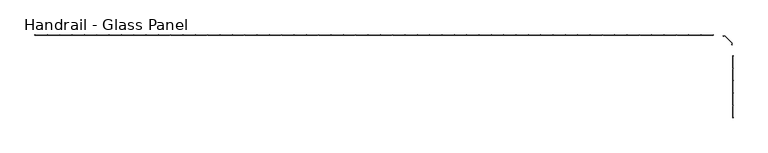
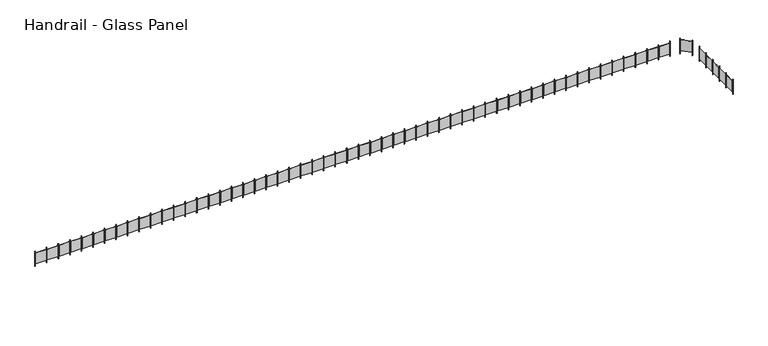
"""IFC4 building model written with IfcOpenShell, lengths in millimetres: railing geometry, Handrail - Glass Panel."""

from ifc_helpers import new_model, si_unit, frame, origin, place, context, project, spatial, polyline, outline, extrude, source, transform, mapped, element, save


def handrail_glass_panel_252f81a2(model_context):
    return source(origin(), model_context, "Body", "SweptSolid", [
        extrude(outline(polyline([(-4938.0615899, 11432.3101347), (-4938.0615899, 11413.2601347), (-4957.1115899, 11413.2601347), (-4957.1115899, 11432.3101347), (-4938.0615899, 11432.3101347)])), frame((0.0, 0.0, 11850.0), z_axis=(0.0, 0.0, 1.0), x_axis=(1.0, 0.0, 0.0)), (0.0, 0.0, 1.0), 863.6),
        extrude(outline(polyline([(-4350.6865899, 11416.4351347), (-4909.4865899, 11416.4351347), (-4909.4865899, 11422.7851347), (-4350.6865899, 11422.7851347), (-4350.6865899, 11416.4351347)])), frame((0.0, 0.0, 11977.0), z_axis=(0.0, 0.0, 1.0), x_axis=(1.0, 0.0, 0.0)), (0.0, 0.0, 1.0), 635.0),
        extrude(outline(polyline([(-4303.0615899, 11432.3101347), (-4303.0615899, 11413.2601347), (-4322.1115899, 11413.2601347), (-4322.1115899, 11432.3101347), (-4303.0615899, 11432.3101347)])), frame((0.0, 0.0, 11850.0), z_axis=(0.0, 0.0, 1.0), x_axis=(1.0, 0.0, 0.0)), (0.0, 0.0, 1.0), 863.6),
        extrude(outline(polyline([(-3715.6865899, 11416.4351347), (-4274.4865899, 11416.4351347), (-4274.4865899, 11422.7851347), (-3715.6865899, 11422.7851347), (-3715.6865899, 11416.4351347)])), frame((0.0, 0.0, 11977.0), z_axis=(0.0, 0.0, 1.0), x_axis=(1.0, 0.0, 0.0)), (0.0, 0.0, 1.0), 635.0),
        extrude(outline(polyline([(-3668.0615899, 11432.3101347), (-3668.0615899, 11413.2601347), (-3687.1115899, 11413.2601347), (-3687.1115899, 11432.3101347), (-3668.0615899, 11432.3101347)])), frame((0.0, 0.0, 11850.0), z_axis=(0.0, 0.0, 1.0), x_axis=(1.0, 0.0, 0.0)), (0.0, 0.0, 1.0), 863.6),
        extrude(outline(polyline([(-3080.6865899, 11416.4351347), (-3639.4865899, 11416.4351347), (-3639.4865899, 11422.7851347), (-3080.6865899, 11422.7851347), (-3080.6865899, 11416.4351347)])), frame((0.0, 0.0, 11977.0), z_axis=(0.0, 0.0, 1.0), x_axis=(1.0, 0.0, 0.0)), (0.0, 0.0, 1.0), 635.0),
        extrude(outline(polyline([(-3033.0615899, 11432.3101347), (-3033.0615899, 11413.2601347), (-3052.1115899, 11413.2601347), (-3052.1115899, 11432.3101347), (-3033.0615899, 11432.3101347)])), frame((0.0, 0.0, 11850.0), z_axis=(0.0, 0.0, 1.0), x_axis=(1.0, 0.0, 0.0)), (0.0, 0.0, 1.0), 863.6),
        extrude(outline(polyline([(-2445.6865899, 11416.4351347), (-3004.4865899, 11416.4351347), (-3004.4865899, 11422.7851347), (-2445.6865899, 11422.7851347), (-2445.6865899, 11416.4351347)])), frame((0.0, 0.0, 11977.0), z_axis=(0.0, 0.0, 1.0), x_axis=(1.0, 0.0, 0.0)), (0.0, 0.0, 1.0), 635.0),
        extrude(outline(polyline([(-2398.0615899, 11432.3101347), (-2398.0615899, 11413.2601347), (-2417.1115899, 11413.2601347), (-2417.1115899, 11432.3101347), (-2398.0615899, 11432.3101347)])), frame((0.0, 0.0, 11850.0), z_axis=(0.0, 0.0, 1.0), x_axis=(1.0, 0.0, 0.0)), (0.0, 0.0, 1.0), 863.6),
        extrude(outline(polyline([(-1810.6865899, 11416.4351347), (-2369.4865899, 11416.4351347), (-2369.4865899, 11422.7851347), (-1810.6865899, 11422.7851347), (-1810.6865899, 11416.4351347)])), frame((0.0, 0.0, 11977.0), z_axis=(0.0, 0.0, 1.0), x_axis=(1.0, 0.0, 0.0)), (0.0, 0.0, 1.0), 635.0),
        extrude(outline(polyline([(-1763.0615899, 11432.3101347), (-1763.0615899, 11413.2601347), (-1782.1115899, 11413.2601347), (-1782.1115899, 11432.3101347), (-1763.0615899, 11432.3101347)])), frame((0.0, 0.0, 11850.0), z_axis=(0.0, 0.0, 1.0), x_axis=(1.0, 0.0, 0.0)), (0.0, 0.0, 1.0), 863.6),
        extrude(outline(polyline([(-1175.6865899, 11416.4351347), (-1734.4865899, 11416.4351347), (-1734.4865899, 11422.7851347), (-1175.6865899, 11422.7851347), (-1175.6865899, 11416.4351347)])), frame((0.0, 0.0, 11977.0), z_axis=(0.0, 0.0, 1.0), x_axis=(1.0, 0.0, 0.0)), (0.0, 0.0, 1.0), 635.0),
        extrude(outline(polyline([(-1128.0615899, 11432.3101347), (-1128.0615899, 11413.2601347), (-1147.1115899, 11413.2601347), (-1147.1115899, 11432.3101347), (-1128.0615899, 11432.3101347)])), frame((0.0, 0.0, 11850.0), z_axis=(0.0, 0.0, 1.0), x_axis=(1.0, 0.0, 0.0)), (0.0, 0.0, 1.0), 863.6),
        extrude(outline(polyline([(-540.6865899, 11416.4351347), (-1099.4865899, 11416.4351347), (-1099.4865899, 11422.7851347), (-540.6865899, 11422.7851347), (-540.6865899, 11416.4351347)])), frame((0.0, 0.0, 11977.0), z_axis=(0.0, 0.0, 1.0), x_axis=(1.0, 0.0, 0.0)), (0.0, 0.0, 1.0), 635.0),
        extrude(outline(polyline([(-493.0615899, 11432.3101347), (-493.0615899, 11413.2601347), (-512.1115899, 11413.2601347), (-512.1115899, 11432.3101347), (-493.0615899, 11432.3101347)])), frame((0.0, 0.0, 11850.0), z_axis=(0.0, 0.0, 1.0), x_axis=(1.0, 0.0, 0.0)), (0.0, 0.0, 1.0), 863.6),
        extrude(outline(polyline([(94.3134101, 11416.4351347), (-464.4865899, 11416.4351347), (-464.4865899, 11422.7851347), (94.3134101, 11422.7851347), (94.3134101, 11416.4351347)])), frame((0.0, 0.0, 11977.0), z_axis=(0.0, 0.0, 1.0), x_axis=(1.0, 0.0, 0.0)), (0.0, 0.0, 1.0), 635.0),
        extrude(outline(polyline([(141.9384101, 11432.3101347), (141.9384101, 11413.2601347), (122.8884101, 11413.2601347), (122.8884101, 11432.3101347), (141.9384101, 11432.3101347)])), frame((0.0, 0.0, 11850.0), z_axis=(0.0, 0.0, 1.0), x_axis=(1.0, 0.0, 0.0)), (0.0, 0.0, 1.0), 863.6),
        extrude(outline(polyline([(729.3134101, 11416.4351347), (170.5134101, 11416.4351347), (170.5134101, 11422.7851347), (729.3134101, 11422.7851347), (729.3134101, 11416.4351347)])), frame((0.0, 0.0, 11977.0), z_axis=(0.0, 0.0, 1.0), x_axis=(1.0, 0.0, 0.0)), (0.0, 0.0, 1.0), 635.0),
        extrude(outline(polyline([(776.9384101, 11432.3101347), (776.9384101, 11413.2601347), (757.8884101, 11413.2601347), (757.8884101, 11432.3101347), (776.9384101, 11432.3101347)])), frame((0.0, 0.0, 11850.0), z_axis=(0.0, 0.0, 1.0), x_axis=(1.0, 0.0, 0.0)), (0.0, 0.0, 1.0), 863.6),
        extrude(outline(polyline([(1364.3134101, 11416.4351347), (805.5134101, 11416.4351347), (805.5134101, 11422.7851347), (1364.3134101, 11422.7851347), (1364.3134101, 11416.4351347)])), frame((0.0, 0.0, 11977.0), z_axis=(0.0, 0.0, 1.0), x_axis=(1.0, 0.0, 0.0)), (0.0, 0.0, 1.0), 635.0),
        extrude(outline(polyline([(1411.9384101, 11432.3101347), (1411.9384101, 11413.2601347), (1392.8884101, 11413.2601347), (1392.8884101, 11432.3101347), (1411.9384101, 11432.3101347)])), frame((0.0, 0.0, 11850.0), z_axis=(0.0, 0.0, 1.0), x_axis=(1.0, 0.0, 0.0)), (0.0, 0.0, 1.0), 863.6),
        extrude(outline(polyline([(1999.3134101, 11416.4351347), (1440.5134101, 11416.4351347), (1440.5134101, 11422.7851347), (1999.3134101, 11422.7851347), (1999.3134101, 11416.4351347)])), frame((0.0, 0.0, 11977.0), z_axis=(0.0, 0.0, 1.0), x_axis=(1.0, 0.0, 0.0)), (0.0, 0.0, 1.0), 635.0),
        extrude(outline(polyline([(2046.9384101, 11432.3101347), (2046.9384101, 11413.2601347), (2027.8884101, 11413.2601347), (2027.8884101, 11432.3101347), (2046.9384101, 11432.3101347)])), frame((0.0, 0.0, 11850.0), z_axis=(0.0, 0.0, 1.0), x_axis=(1.0, 0.0, 0.0)), (0.0, 0.0, 1.0), 863.6),
        extrude(outline(polyline([(2634.3134101, 11416.4351347), (2075.5134101, 11416.4351347), (2075.5134101, 11422.7851347), (2634.3134101, 11422.7851347), (2634.3134101, 11416.4351347)])), frame((0.0, 0.0, 11977.0), z_axis=(0.0, 0.0, 1.0), x_axis=(1.0, 0.0, 0.0)), (0.0, 0.0, 1.0), 635.0),
        extrude(outline(polyline([(2681.9384101, 11432.3101347), (2681.9384101, 11413.2601347), (2662.8884101, 11413.2601347), (2662.8884101, 11432.3101347), (2681.9384101, 11432.3101347)])), frame((0.0, 0.0, 11850.0), z_axis=(0.0, 0.0, 1.0), x_axis=(1.0, 0.0, 0.0)), (0.0, 0.0, 1.0), 863.6),
        extrude(outline(polyline([(3269.3134101, 11416.4351347), (2710.5134101, 11416.4351347), (2710.5134101, 11422.7851347), (3269.3134101, 11422.7851347), (3269.3134101, 11416.4351347)])), frame((0.0, 0.0, 11977.0), z_axis=(0.0, 0.0, 1.0), x_axis=(1.0, 0.0, 0.0)), (0.0, 0.0, 1.0), 635.0),
        extrude(outline(polyline([(3316.9384101, 11432.3101347), (3316.9384101, 11413.2601347), (3297.8884101, 11413.2601347), (3297.8884101, 11432.3101347), (3316.9384101, 11432.3101347)])), frame((0.0, 0.0, 11850.0), z_axis=(0.0, 0.0, 1.0), x_axis=(1.0, 0.0, 0.0)), (0.0, 0.0, 1.0), 863.6),
        extrude(outline(polyline([(3904.3134101, 11416.4351347), (3345.5134101, 11416.4351347), (3345.5134101, 11422.7851347), (3904.3134101, 11422.7851347), (3904.3134101, 11416.4351347)])), frame((0.0, 0.0, 11977.0), z_axis=(0.0, 0.0, 1.0), x_axis=(1.0, 0.0, 0.0)), (0.0, 0.0, 1.0), 635.0),
        extrude(outline(polyline([(3951.9384101, 11432.3101347), (3951.9384101, 11413.2601347), (3932.8884101, 11413.2601347), (3932.8884101, 11432.3101347), (3951.9384101, 11432.3101347)])), frame((0.0, 0.0, 11850.0), z_axis=(0.0, 0.0, 1.0), x_axis=(1.0, 0.0, 0.0)), (0.0, 0.0, 1.0), 863.6),
        extrude(outline(polyline([(4539.3134101, 11416.4351347), (3980.5134101, 11416.4351347), (3980.5134101, 11422.7851347), (4539.3134101, 11422.7851347), (4539.3134101, 11416.4351347)])), frame((0.0, 0.0, 11977.0), z_axis=(0.0, 0.0, 1.0), x_axis=(1.0, 0.0, 0.0)), (0.0, 0.0, 1.0), 635.0),
        extrude(outline(polyline([(4586.9384101, 11432.3101347), (4586.9384101, 11413.2601347), (4567.8884101, 11413.2601347), (4567.8884101, 11432.3101347), (4586.9384101, 11432.3101347)])), frame((0.0, 0.0, 11850.0), z_axis=(0.0, 0.0, 1.0), x_axis=(1.0, 0.0, 0.0)), (0.0, 0.0, 1.0), 863.6),
        extrude(outline(polyline([(5174.3134101, 11416.4351347), (4615.5134101, 11416.4351347), (4615.5134101, 11422.7851347), (5174.3134101, 11422.7851347), (5174.3134101, 11416.4351347)])), frame((0.0, 0.0, 11977.0), z_axis=(0.0, 0.0, 1.0), x_axis=(1.0, 0.0, 0.0)), (0.0, 0.0, 1.0), 635.0),
        extrude(outline(polyline([(5221.9384101, 11432.3101347), (5221.9384101, 11413.2601347), (5202.8884101, 11413.2601347), (5202.8884101, 11432.3101347), (5221.9384101, 11432.3101347)])), frame((0.0, 0.0, 11850.0), z_axis=(0.0, 0.0, 1.0), x_axis=(1.0, 0.0, 0.0)), (0.0, 0.0, 1.0), 863.6),
        extrude(outline(polyline([(5809.3134101, 11416.4351347), (5250.5134101, 11416.4351347), (5250.5134101, 11422.7851347), (5809.3134101, 11422.7851347), (5809.3134101, 11416.4351347)])), frame((0.0, 0.0, 11977.0), z_axis=(0.0, 0.0, 1.0), x_axis=(1.0, 0.0, 0.0)), (0.0, 0.0, 1.0), 635.0),
        extrude(outline(polyline([(5856.9384101, 11432.3101347), (5856.9384101, 11413.2601347), (5837.8884101, 11413.2601347), (5837.8884101, 11432.3101347), (5856.9384101, 11432.3101347)])), frame((0.0, 0.0, 11850.0), z_axis=(0.0, 0.0, 1.0), x_axis=(1.0, 0.0, 0.0)), (0.0, 0.0, 1.0), 863.6),
        extrude(outline(polyline([(6444.3134101, 11416.4351347), (5885.5134101, 11416.4351347), (5885.5134101, 11422.7851347), (6444.3134101, 11422.7851347), (6444.3134101, 11416.4351347)])), frame((0.0, 0.0, 11977.0), z_axis=(0.0, 0.0, 1.0), x_axis=(1.0, 0.0, 0.0)), (0.0, 0.0, 1.0), 635.0),
        extrude(outline(polyline([(6491.9384101, 11432.3101347), (6491.9384101, 11413.2601347), (6472.8884101, 11413.2601347), (6472.8884101, 11432.3101347), (6491.9384101, 11432.3101347)])), frame((0.0, 0.0, 11850.0), z_axis=(0.0, 0.0, 1.0), x_axis=(1.0, 0.0, 0.0)), (0.0, 0.0, 1.0), 863.6),
        extrude(outline(polyline([(7079.3134101, 11416.4351347), (6520.5134101, 11416.4351347), (6520.5134101, 11422.7851347), (7079.3134101, 11422.7851347), (7079.3134101, 11416.4351347)])), frame((0.0, 0.0, 11977.0), z_axis=(0.0, 0.0, 1.0), x_axis=(1.0, 0.0, 0.0)), (0.0, 0.0, 1.0), 635.0),
        extrude(outline(polyline([(7126.9384101, 11432.3101347), (7126.9384101, 11413.2601347), (7107.8884101, 11413.2601347), (7107.8884101, 11432.3101347), (7126.9384101, 11432.3101347)])), frame((0.0, 0.0, 11850.0), z_axis=(0.0, 0.0, 1.0), x_axis=(1.0, 0.0, 0.0)), (0.0, 0.0, 1.0), 863.6),
        extrude(outline(polyline([(7714.3134101, 11416.4351347), (7155.5134101, 11416.4351347), (7155.5134101, 11422.7851347), (7714.3134101, 11422.7851347), (7714.3134101, 11416.4351347)])), frame((0.0, 0.0, 11977.0), z_axis=(0.0, 0.0, 1.0), x_axis=(1.0, 0.0, 0.0)), (0.0, 0.0, 1.0), 635.0),
        extrude(outline(polyline([(7761.9384101, 11432.3101347), (7761.9384101, 11413.2601347), (7742.8884101, 11413.2601347), (7742.8884101, 11432.3101347), (7761.9384101, 11432.3101347)])), frame((0.0, 0.0, 11850.0), z_axis=(0.0, 0.0, 1.0), x_axis=(1.0, 0.0, 0.0)), (0.0, 0.0, 1.0), 863.6),
        extrude(outline(polyline([(8349.3134101, 11416.4351347), (7790.5134101, 11416.4351347), (7790.5134101, 11422.7851347), (8349.3134101, 11422.7851347), (8349.3134101, 11416.4351347)])), frame((0.0, 0.0, 11977.0), z_axis=(0.0, 0.0, 1.0), x_axis=(1.0, 0.0, 0.0)), (0.0, 0.0, 1.0), 635.0),
        extrude(outline(polyline([(8396.9384101, 11432.3101347), (8396.9384101, 11413.2601347), (8377.8884101, 11413.2601347), (8377.8884101, 11432.3101347), (8396.9384101, 11432.3101347)])), frame((0.0, 0.0, 11850.0), z_axis=(0.0, 0.0, 1.0), x_axis=(1.0, 0.0, 0.0)), (0.0, 0.0, 1.0), 863.6),
        extrude(outline(polyline([(8984.3134101, 11416.4351347), (8425.5134101, 11416.4351347), (8425.5134101, 11422.7851347), (8984.3134101, 11422.7851347), (8984.3134101, 11416.4351347)])), frame((0.0, 0.0, 11977.0), z_axis=(0.0, 0.0, 1.0), x_axis=(1.0, 0.0, 0.0)), (0.0, 0.0, 1.0), 635.0),
        extrude(outline(polyline([(9031.9384101, 11432.3101347), (9031.9384101, 11413.2601347), (9012.8884101, 11413.2601347), (9012.8884101, 11432.3101347), (9031.9384101, 11432.3101347)])), frame((0.0, 0.0, 11850.0), z_axis=(0.0, 0.0, 1.0), x_axis=(1.0, 0.0, 0.0)), (0.0, 0.0, 1.0), 863.6),
        extrude(outline(polyline([(9619.3134101, 11416.4351347), (9060.5134101, 11416.4351347), (9060.5134101, 11422.7851347), (9619.3134101, 11422.7851347), (9619.3134101, 11416.4351347)])), frame((0.0, 0.0, 11977.0), z_axis=(0.0, 0.0, 1.0), x_axis=(1.0, 0.0, 0.0)), (0.0, 0.0, 1.0), 635.0),
        extrude(outline(polyline([(9666.9384101, 11432.3101347), (9666.9384101, 11413.2601347), (9647.8884101, 11413.2601347), (9647.8884101, 11432.3101347), (9666.9384101, 11432.3101347)])), frame((0.0, 0.0, 11850.0), z_axis=(0.0, 0.0, 1.0), x_axis=(1.0, 0.0, 0.0)), (0.0, 0.0, 1.0), 863.6),
        extrude(outline(polyline([(10254.3134101, 11416.4351347), (9695.5134101, 11416.4351347), (9695.5134101, 11422.7851347), (10254.3134101, 11422.7851347), (10254.3134101, 11416.4351347)])), frame((0.0, 0.0, 11977.0), z_axis=(0.0, 0.0, 1.0), x_axis=(1.0, 0.0, 0.0)), (0.0, 0.0, 1.0), 635.0),
        extrude(outline(polyline([(10301.9384101, 11432.3101347), (10301.9384101, 11413.2601347), (10282.8884101, 11413.2601347), (10282.8884101, 11432.3101347), (10301.9384101, 11432.3101347)])), frame((0.0, 0.0, 11850.0), z_axis=(0.0, 0.0, 1.0), x_axis=(1.0, 0.0, 0.0)), (0.0, 0.0, 1.0), 863.6),
        extrude(outline(polyline([(10889.3134101, 11416.4351347), (10330.5134101, 11416.4351347), (10330.5134101, 11422.7851347), (10889.3134101, 11422.7851347), (10889.3134101, 11416.4351347)])), frame((0.0, 0.0, 11977.0), z_axis=(0.0, 0.0, 1.0), x_axis=(1.0, 0.0, 0.0)), (0.0, 0.0, 1.0), 635.0),
        extrude(outline(polyline([(10936.9384101, 11432.3101347), (10936.9384101, 11413.2601347), (10917.8884101, 11413.2601347), (10917.8884101, 11432.3101347), (10936.9384101, 11432.3101347)])), frame((0.0, 0.0, 11850.0), z_axis=(0.0, 0.0, 1.0), x_axis=(1.0, 0.0, 0.0)), (0.0, 0.0, 1.0), 863.6),
        extrude(outline(polyline([(11524.3134101, 11416.4351347), (10965.5134101, 11416.4351347), (10965.5134101, 11422.7851347), (11524.3134101, 11422.7851347), (11524.3134101, 11416.4351347)])), frame((0.0, 0.0, 11977.0), z_axis=(0.0, 0.0, 1.0), x_axis=(1.0, 0.0, 0.0)), (0.0, 0.0, 1.0), 635.0),
        extrude(outline(polyline([(11571.9384101, 11432.3101347), (11571.9384101, 11413.2601347), (11552.8884101, 11413.2601347), (11552.8884101, 11432.3101347), (11571.9384101, 11432.3101347)])), frame((0.0, 0.0, 11850.0), z_axis=(0.0, 0.0, 1.0), x_axis=(1.0, 0.0, 0.0)), (0.0, 0.0, 1.0), 863.6),
        extrude(outline(polyline([(12159.3134101, 11416.4351347), (11600.5134101, 11416.4351347), (11600.5134101, 11422.7851347), (12159.3134101, 11422.7851347), (12159.3134101, 11416.4351347)])), frame((0.0, 0.0, 11977.0), z_axis=(0.0, 0.0, 1.0), x_axis=(1.0, 0.0, 0.0)), (0.0, 0.0, 1.0), 635.0),
        extrude(outline(polyline([(12206.9384101, 11432.3101347), (12206.9384101, 11413.2601347), (12187.8884101, 11413.2601347), (12187.8884101, 11432.3101347), (12206.9384101, 11432.3101347)])), frame((0.0, 0.0, 11850.0), z_axis=(0.0, 0.0, 1.0), x_axis=(1.0, 0.0, 0.0)), (0.0, 0.0, 1.0), 863.6),
        extrude(outline(polyline([(12794.3134101, 11416.4351347), (12235.5134101, 11416.4351347), (12235.5134101, 11422.7851347), (12794.3134101, 11422.7851347), (12794.3134101, 11416.4351347)])), frame((0.0, 0.0, 11977.0), z_axis=(0.0, 0.0, 1.0), x_axis=(1.0, 0.0, 0.0)), (0.0, 0.0, 1.0), 635.0),
        extrude(outline(polyline([(12841.9384101, 11432.3101347), (12841.9384101, 11413.2601347), (12822.8884101, 11413.2601347), (12822.8884101, 11432.3101347), (12841.9384101, 11432.3101347)])), frame((0.0, 0.0, 11850.0), z_axis=(0.0, 0.0, 1.0), x_axis=(1.0, 0.0, 0.0)), (0.0, 0.0, 1.0), 863.6),
        extrude(outline(polyline([(13429.3134101, 11416.4351347), (12870.5134101, 11416.4351347), (12870.5134101, 11422.7851347), (13429.3134101, 11422.7851347), (13429.3134101, 11416.4351347)])), frame((0.0, 0.0, 11977.0), z_axis=(0.0, 0.0, 1.0), x_axis=(1.0, 0.0, 0.0)), (0.0, 0.0, 1.0), 635.0),
        extrude(outline(polyline([(13476.9384101, 11432.3101347), (13476.9384101, 11413.2601347), (13457.8884101, 11413.2601347), (13457.8884101, 11432.3101347), (13476.9384101, 11432.3101347)])), frame((0.0, 0.0, 11850.0), z_axis=(0.0, 0.0, 1.0), x_axis=(1.0, 0.0, 0.0)), (0.0, 0.0, 1.0), 863.6),
        extrude(outline(polyline([(14064.3134101, 11416.4351347), (13505.5134101, 11416.4351347), (13505.5134101, 11422.7851347), (14064.3134101, 11422.7851347), (14064.3134101, 11416.4351347)])), frame((0.0, 0.0, 11977.0), z_axis=(0.0, 0.0, 1.0), x_axis=(1.0, 0.0, 0.0)), (0.0, 0.0, 1.0), 635.0),
        extrude(outline(polyline([(14111.9384101, 11432.3101347), (14111.9384101, 11413.2601347), (14092.8884101, 11413.2601347), (14092.8884101, 11432.3101347), (14111.9384101, 11432.3101347)])), frame((0.0, 0.0, 11850.0), z_axis=(0.0, 0.0, 1.0), x_axis=(1.0, 0.0, 0.0)), (0.0, 0.0, 1.0), 863.6),
        extrude(outline(polyline([(14699.3134101, 11416.4351347), (14140.5134101, 11416.4351347), (14140.5134101, 11422.7851347), (14699.3134101, 11422.7851347), (14699.3134101, 11416.4351347)])), frame((0.0, 0.0, 11977.0), z_axis=(0.0, 0.0, 1.0), x_axis=(1.0, 0.0, 0.0)), (0.0, 0.0, 1.0), 635.0),
        extrude(outline(polyline([(14746.9384101, 11432.3101347), (14746.9384101, 11413.2601347), (14727.8884101, 11413.2601347), (14727.8884101, 11432.3101347), (14746.9384101, 11432.3101347)])), frame((0.0, 0.0, 11850.0), z_axis=(0.0, 0.0, 1.0), x_axis=(1.0, 0.0, 0.0)), (0.0, 0.0, 1.0), 863.6),
        extrude(outline(polyline([(15334.3134101, 11416.4351347), (14775.5134101, 11416.4351347), (14775.5134101, 11422.7851347), (15334.3134101, 11422.7851347), (15334.3134101, 11416.4351347)])), frame((0.0, 0.0, 11977.0), z_axis=(0.0, 0.0, 1.0), x_axis=(1.0, 0.0, 0.0)), (0.0, 0.0, 1.0), 635.0),
        extrude(outline(polyline([(15381.9384101, 11432.3101347), (15381.9384101, 11413.2601347), (15362.8884101, 11413.2601347), (15362.8884101, 11432.3101347), (15381.9384101, 11432.3101347)])), frame((0.0, 0.0, 11850.0), z_axis=(0.0, 0.0, 1.0), x_axis=(1.0, 0.0, 0.0)), (0.0, 0.0, 1.0), 863.6),
        extrude(outline(polyline([(15969.3134101, 11416.4351347), (15410.5134101, 11416.4351347), (15410.5134101, 11422.7851347), (15969.3134101, 11422.7851347), (15969.3134101, 11416.4351347)])), frame((0.0, 0.0, 11977.0), z_axis=(0.0, 0.0, 1.0), x_axis=(1.0, 0.0, 0.0)), (0.0, 0.0, 1.0), 635.0),
        extrude(outline(polyline([(16016.9384101, 11432.3101347), (16016.9384101, 11413.2601347), (15997.8884101, 11413.2601347), (15997.8884101, 11432.3101347), (16016.9384101, 11432.3101347)])), frame((0.0, 0.0, 11850.0), z_axis=(0.0, 0.0, 1.0), x_axis=(1.0, 0.0, 0.0)), (0.0, 0.0, 1.0), 863.6),
        extrude(outline(polyline([(16604.3134101, 11416.4351347), (16045.5134101, 11416.4351347), (16045.5134101, 11422.7851347), (16604.3134101, 11422.7851347), (16604.3134101, 11416.4351347)])), frame((0.0, 0.0, 11977.0), z_axis=(0.0, 0.0, 1.0), x_axis=(1.0, 0.0, 0.0)), (0.0, 0.0, 1.0), 635.0),
        extrude(outline(polyline([(16651.9384101, 11432.3101347), (16651.9384101, 11413.2601347), (16632.8884101, 11413.2601347), (16632.8884101, 11432.3101347), (16651.9384101, 11432.3101347)])), frame((0.0, 0.0, 11850.0), z_axis=(0.0, 0.0, 1.0), x_axis=(1.0, 0.0, 0.0)), (0.0, 0.0, 1.0), 863.6),
        extrude(outline(polyline([(17239.3134101, 11416.4351347), (16680.5134101, 11416.4351347), (16680.5134101, 11422.7851347), (17239.3134101, 11422.7851347), (17239.3134101, 11416.4351347)])), frame((0.0, 0.0, 11977.0), z_axis=(0.0, 0.0, 1.0), x_axis=(1.0, 0.0, 0.0)), (0.0, 0.0, 1.0), 635.0),
        extrude(outline(polyline([(17286.9384101, 11432.3101347), (17286.9384101, 11413.2601347), (17267.8884101, 11413.2601347), (17267.8884101, 11432.3101347), (17286.9384101, 11432.3101347)])), frame((0.0, 0.0, 11850.0), z_axis=(0.0, 0.0, 1.0), x_axis=(1.0, 0.0, 0.0)), (0.0, 0.0, 1.0), 863.6),
        extrude(outline(polyline([(17874.3134101, 11416.4351347), (17315.5134101, 11416.4351347), (17315.5134101, 11422.7851347), (17874.3134101, 11422.7851347), (17874.3134101, 11416.4351347)])), frame((0.0, 0.0, 11977.0), z_axis=(0.0, 0.0, 1.0), x_axis=(1.0, 0.0, 0.0)), (0.0, 0.0, 1.0), 635.0),
        extrude(outline(polyline([(17921.9384101, 11432.3101347), (17921.9384101, 11413.2601347), (17902.8884101, 11413.2601347), (17902.8884101, 11432.3101347), (17921.9384101, 11432.3101347)])), frame((0.0, 0.0, 11850.0), z_axis=(0.0, 0.0, 1.0), x_axis=(1.0, 0.0, 0.0)), (0.0, 0.0, 1.0), 863.6),
        extrude(outline(polyline([(18509.3134101, 11416.4351347), (17950.5134101, 11416.4351347), (17950.5134101, 11422.7851347), (18509.3134101, 11422.7851347), (18509.3134101, 11416.4351347)])), frame((0.0, 0.0, 11977.0), z_axis=(0.0, 0.0, 1.0), x_axis=(1.0, 0.0, 0.0)), (0.0, 0.0, 1.0), 635.0),
        extrude(outline(polyline([(18556.9384101, 11432.3101347), (18556.9384101, 11413.2601347), (18537.8884101, 11413.2601347), (18537.8884101, 11432.3101347), (18556.9384101, 11432.3101347)])), frame((0.0, 0.0, 11850.0), z_axis=(0.0, 0.0, 1.0), x_axis=(1.0, 0.0, 0.0)), (0.0, 0.0, 1.0), 863.6),
        extrude(outline(polyline([(19144.3134101, 11416.4351347), (18585.5134101, 11416.4351347), (18585.5134101, 11422.7851347), (19144.3134101, 11422.7851347), (19144.3134101, 11416.4351347)])), frame((0.0, 0.0, 11977.0), z_axis=(0.0, 0.0, 1.0), x_axis=(1.0, 0.0, 0.0)), (0.0, 0.0, 1.0), 635.0),
        extrude(outline(polyline([(19191.9384101, 11432.3101347), (19191.9384101, 11413.2601347), (19172.8884101, 11413.2601347), (19172.8884101, 11432.3101347), (19191.9384101, 11432.3101347)])), frame((0.0, 0.0, 11850.0), z_axis=(0.0, 0.0, 1.0), x_axis=(1.0, 0.0, 0.0)), (0.0, 0.0, 1.0), 863.6),
        extrude(outline(polyline([(19779.3134101, 11416.4351347), (19220.5134101, 11416.4351347), (19220.5134101, 11422.7851347), (19779.3134101, 11422.7851347), (19779.3134101, 11416.4351347)])), frame((0.0, 0.0, 11977.0), z_axis=(0.0, 0.0, 1.0), x_axis=(1.0, 0.0, 0.0)), (0.0, 0.0, 1.0), 635.0),
        extrude(outline(polyline([(19826.9384101, 11432.3101347), (19826.9384101, 11413.2601347), (19807.8884101, 11413.2601347), (19807.8884101, 11432.3101347), (19826.9384101, 11432.3101347)])), frame((0.0, 0.0, 11850.0), z_axis=(0.0, 0.0, 1.0), x_axis=(1.0, 0.0, 0.0)), (0.0, 0.0, 1.0), 863.6),
        extrude(outline(polyline([(20414.3134101, 11416.4351347), (19855.5134101, 11416.4351347), (19855.5134101, 11422.7851347), (20414.3134101, 11422.7851347), (20414.3134101, 11416.4351347)])), frame((0.0, 0.0, 11977.0), z_axis=(0.0, 0.0, 1.0), x_axis=(1.0, 0.0, 0.0)), (0.0, 0.0, 1.0), 635.0),
        extrude(outline(polyline([(20461.9384101, 11432.3101347), (20461.9384101, 11413.2601347), (20442.8884101, 11413.2601347), (20442.8884101, 11432.3101347), (20461.9384101, 11432.3101347)])), frame((0.0, 0.0, 11850.0), z_axis=(0.0, 0.0, 1.0), x_axis=(1.0, 0.0, 0.0)), (0.0, 0.0, 1.0), 863.6),
        extrude(outline(polyline([(21049.3134101, 11416.4351347), (20490.5134101, 11416.4351347), (20490.5134101, 11422.7851347), (21049.3134101, 11422.7851347), (21049.3134101, 11416.4351347)])), frame((0.0, 0.0, 11977.0), z_axis=(0.0, 0.0, 1.0), x_axis=(1.0, 0.0, 0.0)), (0.0, 0.0, 1.0), 635.0),
        extrude(outline(polyline([(21096.9384101, 11432.3101347), (21096.9384101, 11413.2601347), (21077.8884101, 11413.2601347), (21077.8884101, 11432.3101347), (21096.9384101, 11432.3101347)])), frame((0.0, 0.0, 11850.0), z_axis=(0.0, 0.0, 1.0), x_axis=(1.0, 0.0, 0.0)), (0.0, 0.0, 1.0), 863.6),
        extrude(outline(polyline([(21684.3134101, 11416.4351347), (21125.5134101, 11416.4351347), (21125.5134101, 11422.7851347), (21684.3134101, 11422.7851347), (21684.3134101, 11416.4351347)])), frame((0.0, 0.0, 11977.0), z_axis=(0.0, 0.0, 1.0), x_axis=(1.0, 0.0, 0.0)), (0.0, 0.0, 1.0), 635.0),
        extrude(outline(polyline([(21731.9384101, 11432.3101347), (21731.9384101, 11413.2601347), (21712.8884101, 11413.2601347), (21712.8884101, 11432.3101347), (21731.9384101, 11432.3101347)])), frame((0.0, 0.0, 11850.0), z_axis=(0.0, 0.0, 1.0), x_axis=(1.0, 0.0, 0.0)), (0.0, 0.0, 1.0), 863.6),
        extrude(outline(polyline([(22319.3134101, 11416.4351347), (21760.5134101, 11416.4351347), (21760.5134101, 11422.7851347), (22319.3134101, 11422.7851347), (22319.3134101, 11416.4351347)])), frame((0.0, 0.0, 11977.0), z_axis=(0.0, 0.0, 1.0), x_axis=(1.0, 0.0, 0.0)), (0.0, 0.0, 1.0), 635.0),
        extrude(outline(polyline([(22366.9384101, 11432.3101347), (22366.9384101, 11413.2601347), (22347.8884101, 11413.2601347), (22347.8884101, 11432.3101347), (22366.9384101, 11432.3101347)])), frame((0.0, 0.0, 11850.0), z_axis=(0.0, 0.0, 1.0), x_axis=(1.0, 0.0, 0.0)), (0.0, 0.0, 1.0), 863.6),
        extrude(outline(polyline([(22954.3134101, 11416.4351347), (22395.5134101, 11416.4351347), (22395.5134101, 11422.7851347), (22954.3134101, 11422.7851347), (22954.3134101, 11416.4351347)])), frame((0.0, 0.0, 11977.0), z_axis=(0.0, 0.0, 1.0), x_axis=(1.0, 0.0, 0.0)), (0.0, 0.0, 1.0), 635.0),
        extrude(outline(polyline([(23001.9384101, 11432.3101347), (23001.9384101, 11413.2601347), (22982.8884101, 11413.2601347), (22982.8884101, 11432.3101347), (23001.9384101, 11432.3101347)])), frame((0.0, 0.0, 11850.0), z_axis=(0.0, 0.0, 1.0), x_axis=(1.0, 0.0, 0.0)), (0.0, 0.0, 1.0), 863.6),
        extrude(outline(polyline([(23589.3134101, 11416.4351347), (23030.5134101, 11416.4351347), (23030.5134101, 11422.7851347), (23589.3134101, 11422.7851347), (23589.3134101, 11416.4351347)])), frame((0.0, 0.0, 11977.0), z_axis=(0.0, 0.0, 1.0), x_axis=(1.0, 0.0, 0.0)), (0.0, 0.0, 1.0), 635.0),
        extrude(outline(polyline([(23636.9384101, 11432.3101347), (23636.9384101, 11413.2601347), (23617.8884101, 11413.2601347), (23617.8884101, 11432.3101347), (23636.9384101, 11432.3101347)])), frame((0.0, 0.0, 11850.0), z_axis=(0.0, 0.0, 1.0), x_axis=(1.0, 0.0, 0.0)), (0.0, 0.0, 1.0), 863.6),
        extrude(outline(polyline([(24224.3134101, 11416.4351347), (23665.5134101, 11416.4351347), (23665.5134101, 11422.7851347), (24224.3134101, 11422.7851347), (24224.3134101, 11416.4351347)])), frame((0.0, 0.0, 11977.0), z_axis=(0.0, 0.0, 1.0), x_axis=(1.0, 0.0, 0.0)), (0.0, 0.0, 1.0), 635.0),
        extrude(outline(polyline([(24271.9384101, 11432.3101347), (24271.9384101, 11413.2601347), (24252.8884101, 11413.2601347), (24252.8884101, 11432.3101347), (24271.9384101, 11432.3101347)])), frame((0.0, 0.0, 11850.0), z_axis=(0.0, 0.0, 1.0), x_axis=(1.0, 0.0, 0.0)), (0.0, 0.0, 1.0), 863.6),
        extrude(outline(polyline([(24859.3134101, 11416.4351347), (24300.5134101, 11416.4351347), (24300.5134101, 11422.7851347), (24859.3134101, 11422.7851347), (24859.3134101, 11416.4351347)])), frame((0.0, 0.0, 11977.0), z_axis=(0.0, 0.0, 1.0), x_axis=(1.0, 0.0, 0.0)), (0.0, 0.0, 1.0), 635.0),
        extrude(outline(polyline([(24906.9384101, 11432.3101347), (24906.9384101, 11413.2601347), (24887.8884101, 11413.2601347), (24887.8884101, 11432.3101347), (24906.9384101, 11432.3101347)])), frame((0.0, 0.0, 11850.0), z_axis=(0.0, 0.0, 1.0), x_axis=(1.0, 0.0, 0.0)), (0.0, 0.0, 1.0), 863.6),
        extrude(outline(polyline([(25494.3134101, 11416.4351347), (24935.5134101, 11416.4351347), (24935.5134101, 11422.7851347), (25494.3134101, 11422.7851347), (25494.3134101, 11416.4351347)])), frame((0.0, 0.0, 11977.0), z_axis=(0.0, 0.0, 1.0), x_axis=(1.0, 0.0, 0.0)), (0.0, 0.0, 1.0), 635.0),
        extrude(outline(polyline([(25541.9384101, 11432.3101347), (25541.9384101, 11413.2601347), (25522.8884101, 11413.2601347), (25522.8884101, 11432.3101347), (25541.9384101, 11432.3101347)])), frame((0.0, 0.0, 11850.0), z_axis=(0.0, 0.0, 1.0), x_axis=(1.0, 0.0, 0.0)), (0.0, 0.0, 1.0), 863.6),
        extrude(outline(polyline([(26129.3134101, 11416.4351347), (25570.5134101, 11416.4351347), (25570.5134101, 11422.7851347), (26129.3134101, 11422.7851347), (26129.3134101, 11416.4351347)])), frame((0.0, 0.0, 11977.0), z_axis=(0.0, 0.0, 1.0), x_axis=(1.0, 0.0, 0.0)), (0.0, 0.0, 1.0), 635.0),
        extrude(outline(polyline([(26176.9384101, 11432.3101347), (26176.9384101, 11413.2601347), (26157.8884101, 11413.2601347), (26157.8884101, 11432.3101347), (26176.9384101, 11432.3101347)])), frame((0.0, 0.0, 11850.0), z_axis=(0.0, 0.0, 1.0), x_axis=(1.0, 0.0, 0.0)), (0.0, 0.0, 1.0), 863.6),
        extrude(outline(polyline([(26764.3134101, 11416.4351347), (26205.5134101, 11416.4351347), (26205.5134101, 11422.7851347), (26764.3134101, 11422.7851347), (26764.3134101, 11416.4351347)])), frame((0.0, 0.0, 11977.0), z_axis=(0.0, 0.0, 1.0), x_axis=(1.0, 0.0, 0.0)), (0.0, 0.0, 1.0), 635.0),
        extrude(outline(polyline([(26811.9384101, 11432.3101347), (26811.9384101, 11413.2601347), (26792.8884101, 11413.2601347), (26792.8884101, 11432.3101347), (26811.9384101, 11432.3101347)])), frame((0.0, 0.0, 11850.0), z_axis=(0.0, 0.0, 1.0), x_axis=(1.0, 0.0, 0.0)), (0.0, 0.0, 1.0), 863.6),
        extrude(outline(polyline([(27399.3134101, 11416.4351347), (26840.5134101, 11416.4351347), (26840.5134101, 11422.7851347), (27399.3134101, 11422.7851347), (27399.3134101, 11416.4351347)])), frame((0.0, 0.0, 11977.0), z_axis=(0.0, 0.0, 1.0), x_axis=(1.0, 0.0, 0.0)), (0.0, 0.0, 1.0), 635.0),
        extrude(outline(polyline([(27446.9384101, 11432.3101347), (27446.9384101, 11413.2601347), (27427.8884101, 11413.2601347), (27427.8884101, 11432.3101347), (27446.9384101, 11432.3101347)])), frame((0.0, 0.0, 11850.0), z_axis=(0.0, 0.0, 1.0), x_axis=(1.0, 0.0, 0.0)), (0.0, 0.0, 1.0), 863.6),
        extrude(outline(polyline([(28034.3134101, 11416.4351347), (27475.5134101, 11416.4351347), (27475.5134101, 11422.7851347), (28034.3134101, 11422.7851347), (28034.3134101, 11416.4351347)])), frame((0.0, 0.0, 11977.0), z_axis=(0.0, 0.0, 1.0), x_axis=(1.0, 0.0, 0.0)), (0.0, 0.0, 1.0), 635.0),
        extrude(outline(polyline([(28081.9384101, 11432.3101347), (28081.9384101, 11413.2601347), (28062.8884101, 11413.2601347), (28062.8884101, 11432.3101347), (28081.9384101, 11432.3101347)])), frame((0.0, 0.0, 11850.0), z_axis=(0.0, 0.0, 1.0), x_axis=(1.0, 0.0, 0.0)), (0.0, 0.0, 1.0), 863.6),
        extrude(outline(polyline([(28669.3134101, 11416.4351347), (28110.5134101, 11416.4351347), (28110.5134101, 11422.7851347), (28669.3134101, 11422.7851347), (28669.3134101, 11416.4351347)])), frame((0.0, 0.0, 11977.0), z_axis=(0.0, 0.0, 1.0), x_axis=(1.0, 0.0, 0.0)), (0.0, 0.0, 1.0), 635.0),
        extrude(outline(polyline([(28716.9384101, 11432.3101347), (28716.9384101, 11413.2601347), (28697.8884101, 11413.2601347), (28697.8884101, 11432.3101347), (28716.9384101, 11432.3101347)])), frame((0.0, 0.0, 11850.0), z_axis=(0.0, 0.0, 1.0), x_axis=(1.0, 0.0, 0.0)), (0.0, 0.0, 1.0), 863.6),
        extrude(outline(polyline([(29304.3134101, 11416.4351347), (28745.5134101, 11416.4351347), (28745.5134101, 11422.7851347), (29304.3134101, 11422.7851347), (29304.3134101, 11416.4351347)])), frame((0.0, 0.0, 11977.0), z_axis=(0.0, 0.0, 1.0), x_axis=(1.0, 0.0, 0.0)), (0.0, 0.0, 1.0), 635.0),
        extrude(outline(polyline([(29351.9384101, 11432.3101347), (29351.9384101, 11413.2601347), (29332.8884101, 11413.2601347), (29332.8884101, 11432.3101347), (29351.9384101, 11432.3101347)])), frame((0.0, 0.0, 11850.0), z_axis=(0.0, 0.0, 1.0), x_axis=(1.0, 0.0, 0.0)), (0.0, 0.0, 1.0), 863.6),
        extrude(outline(polyline([(29939.3134101, 11416.4351347), (29380.5134101, 11416.4351347), (29380.5134101, 11422.7851347), (29939.3134101, 11422.7851347), (29939.3134101, 11416.4351347)])), frame((0.0, 0.0, 11977.0), z_axis=(0.0, 0.0, 1.0), x_axis=(1.0, 0.0, 0.0)), (0.0, 0.0, 1.0), 635.0),
        extrude(outline(polyline([(29986.9384101, 11432.3101347), (29986.9384101, 11413.2601347), (29967.8884101, 11413.2601347), (29967.8884101, 11432.3101347), (29986.9384101, 11432.3101347)])), frame((0.0, 0.0, 11850.0), z_axis=(0.0, 0.0, 1.0), x_axis=(1.0, 0.0, 0.0)), (0.0, 0.0, 1.0), 863.6),
        extrude(outline(polyline([(30509.4503519, 11373.9985371), (30502.456341, 11356.2788782), (30484.7366821, 11363.2728891), (30491.7306929, 11380.992548), (30509.4503519, 11373.9985371)])), frame((0.0, 0.0, 11850.0), z_axis=(0.0, 0.0, 1.0), x_axis=(1.0, 0.0, 0.0)), (0.0, 0.0, 1.0), 863.6),
        extrude(outline(polyline([(30953.7795148, 10993.6199701), (30558.6482455, 11388.7512395), (30563.1383736, 11393.2413675), (30958.2696429, 10998.1100982), (30953.7795148, 10993.6199701)])), frame((0.0, 0.0, 11977.0), z_axis=(0.0, 0.0, 1.0), x_axis=(1.0, 0.0, 0.0)), (0.0, 0.0, 1.0), 635.0),
        extrude(outline(polyline([(30946.0208234, 10926.7024176), (30928.3011644, 10919.7084067), (30921.3071536, 10937.4280656), (30939.0268125, 10944.4220765), (30946.0208234, 10926.7024176)])), frame((0.0, 0.0, 11850.0), z_axis=(0.0, 0.0, 1.0), x_axis=(1.0, 0.0, 0.0)), (0.0, 0.0, 1.0), 863.6),
        extrude(outline(polyline([(30997.3384101, 10337.6601347), (30978.2884101, 10337.6601347), (30978.2884101, 10356.7101347), (30997.3384101, 10356.7101347), (30997.3384101, 10337.6601347)])), frame((0.0, 0.0, 11850.0), z_axis=(0.0, 0.0, 1.0), x_axis=(1.0, 0.0, 0.0)), (0.0, 0.0, 1.0), 863.6),
        extrude(outline(polyline([(30981.4634101, 9750.2851347), (30981.4634101, 10309.0851347), (30987.8134101, 10309.0851347), (30987.8134101, 9750.2851347), (30981.4634101, 9750.2851347)])), frame((0.0, 0.0, 11977.0), z_axis=(0.0, 0.0, 1.0), x_axis=(1.0, 0.0, 0.0)), (0.0, 0.0, 1.0), 635.0),
        extrude(outline(polyline([(30997.3384101, 9702.6601347), (30978.2884101, 9702.6601347), (30978.2884101, 9721.7101347), (30997.3384101, 9721.7101347), (30997.3384101, 9702.6601347)])), frame((0.0, 0.0, 11850.0), z_axis=(0.0, 0.0, 1.0), x_axis=(1.0, 0.0, 0.0)), (0.0, 0.0, 1.0), 863.6),
        extrude(outline(polyline([(30981.4634101, 9115.2851347), (30981.4634101, 9674.0851347), (30987.8134101, 9674.0851347), (30987.8134101, 9115.2851347), (30981.4634101, 9115.2851347)])), frame((0.0, 0.0, 11977.0), z_axis=(0.0, 0.0, 1.0), x_axis=(1.0, 0.0, 0.0)), (0.0, 0.0, 1.0), 635.0),
        extrude(outline(polyline([(30997.3384101, 9067.6601347), (30978.2884101, 9067.6601347), (30978.2884101, 9086.7101347), (30997.3384101, 9086.7101347), (30997.3384101, 9067.6601347)])), frame((0.0, 0.0, 11850.0), z_axis=(0.0, 0.0, 1.0), x_axis=(1.0, 0.0, 0.0)), (0.0, 0.0, 1.0), 863.6),
        extrude(outline(polyline([(30981.4634101, 8480.2851347), (30981.4634101, 9039.0851347), (30987.8134101, 9039.0851347), (30987.8134101, 8480.2851347), (30981.4634101, 8480.2851347)])), frame((0.0, 0.0, 11977.0), z_axis=(0.0, 0.0, 1.0), x_axis=(1.0, 0.0, 0.0)), (0.0, 0.0, 1.0), 635.0),
        extrude(outline(polyline([(30997.3384101, 8432.6601347), (30978.2884101, 8432.6601347), (30978.2884101, 8451.7101347), (30997.3384101, 8451.7101347), (30997.3384101, 8432.6601347)])), frame((0.0, 0.0, 11850.0), z_axis=(0.0, 0.0, 1.0), x_axis=(1.0, 0.0, 0.0)), (0.0, 0.0, 1.0), 863.6),
        extrude(outline(polyline([(30981.4634101, 7845.2851347), (30981.4634101, 8404.0851347), (30987.8134101, 8404.0851347), (30987.8134101, 7845.2851347), (30981.4634101, 7845.2851347)])), frame((0.0, 0.0, 11977.0), z_axis=(0.0, 0.0, 1.0), x_axis=(1.0, 0.0, 0.0)), (0.0, 0.0, 1.0), 635.0),
        extrude(outline(polyline([(30997.3384101, 7797.6601347), (30978.2884101, 7797.6601347), (30978.2884101, 7816.7101347), (30997.3384101, 7816.7101347), (30997.3384101, 7797.6601347)])), frame((0.0, 0.0, 11850.0), z_axis=(0.0, 0.0, 1.0), x_axis=(1.0, 0.0, 0.0)), (0.0, 0.0, 1.0), 863.6),
        extrude(outline(polyline([(30981.4634101, 7210.2851347), (30981.4634101, 7769.0851347), (30987.8134101, 7769.0851347), (30987.8134101, 7210.2851347), (30981.4634101, 7210.2851347)])), frame((0.0, 0.0, 11977.0), z_axis=(0.0, 0.0, 1.0), x_axis=(1.0, 0.0, 0.0)), (0.0, 0.0, 1.0), 635.0),
        extrude(outline(polyline([(30997.3384101, 7162.6601347), (30978.2884101, 7162.6601347), (30978.2884101, 7181.7101347), (30997.3384101, 7181.7101347), (30997.3384101, 7162.6601347)])), frame((0.0, 0.0, 11850.0), z_axis=(0.0, 0.0, 1.0), x_axis=(1.0, 0.0, 0.0)), (0.0, 0.0, 1.0), 863.6),
    ])


if __name__ == "__main__":
    model = new_model("IFC4")
    model_context = context("Model", 3, world=origin())
    ifc_project = project(units=[si_unit("LENGTHUNIT", "METRE", prefix="MILLI")], contexts=[model_context])
    site = spatial("IfcSite", under=ifc_project)
    building = spatial("IfcBuilding", under=site)
    placement = place(None, origin())
    handrail_glass_panel_shape = handrail_glass_panel_252f81a2(model_context)
    element("IfcRailing", 1, ObjectType="Handrail - Glass Panel", at=placement, inside=building, context=model_context, shape_type="MappedRepresentation", body=[
        mapped(handrail_glass_panel_shape, transform((0.0, 0.0, 0.0), x_axis=(1.0, 0.0, 0.0), y_axis=(0.0, 1.0, 0.0), z_axis=(0.0, 0.0, 1.0))),
    ])
    save(model, "model.ifc")
